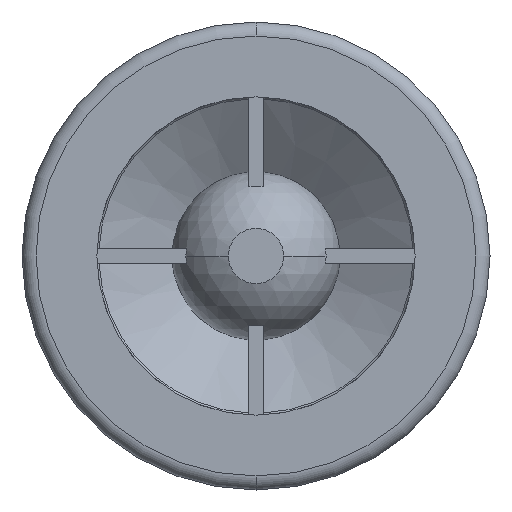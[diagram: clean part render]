
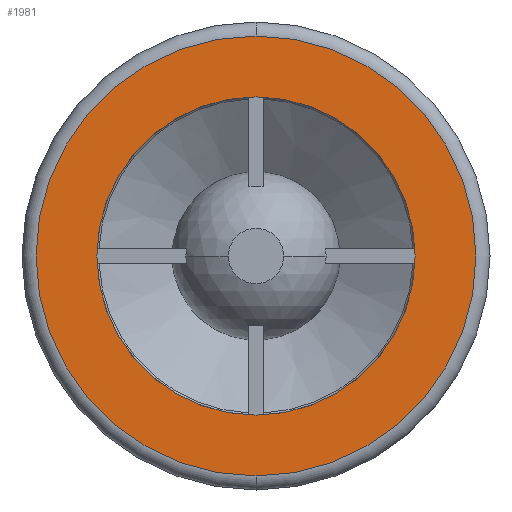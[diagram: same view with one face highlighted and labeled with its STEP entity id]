
A CAD part, front view. The second image highlights one B-rep face of the part: STEP entity #1981.
In plain terms, the highlighted planar face has unit normal (0, -1, 0).
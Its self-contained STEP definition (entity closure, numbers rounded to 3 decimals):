
#1615 = EDGE_CURVE ( 'NONE', #1616, #1617, #5136, .T. ) ;
#1616 = VERTEX_POINT ( 'NONE', #5131 ) ;
#1617 = VERTEX_POINT ( 'NONE', #5130 ) ;
#1721 = VERTEX_POINT ( 'NONE', #5295 ) ;
#1724 = EDGE_CURVE ( 'NONE', #1721, #1725, #5358, .T. ) ;
#1725 = VERTEX_POINT ( 'NONE', #5353 ) ;
#1753 = EDGE_CURVE ( 'NONE', #1725, #1721, #5364, .T. ) ;
#1959 = ORIENTED_EDGE ( 'NONE', *, *, #1960, .T. ) ;
#1960 = EDGE_CURVE ( 'NONE', #1617, #1616, #5751, .T. ) ;
#1961 = ORIENTED_EDGE ( 'NONE', *, *, #1615, .T. ) ;
#1962 = EDGE_LOOP ( 'NONE', ( #1963, #1964 ) ) ;
#1963 = ORIENTED_EDGE ( 'NONE', *, *, #1753, .F. ) ;
#1964 = ORIENTED_EDGE ( 'NONE', *, *, #1724, .F. ) ;
#1981 = ADVANCED_FACE ( 'NONE', ( #5785, #5784 ), #5783, .F. ) ;
#1982 = EDGE_LOOP ( 'NONE', ( #1959, #1961 ) ) ;
#5130 = CARTESIAN_POINT ( 'NONE',  ( 0., 0., 23.5 ) ) ;
#5131 = CARTESIAN_POINT ( 'NONE',  ( 0., 0., -23.5 ) ) ;
#5132 = DIRECTION ( 'NONE',  ( 0., 0., 1. ) ) ;
#5133 = DIRECTION ( 'NONE',  ( 0., -1., 0. ) ) ;
#5134 = CARTESIAN_POINT ( 'NONE',  ( 0., 0., 0. ) ) ;
#5135 = AXIS2_PLACEMENT_3D ( 'NONE', #5134, #5133, #5132 ) ;
#5136 = CIRCLE ( 'NONE', #5135, 23.5 ) ;
#5295 = CARTESIAN_POINT ( 'NONE',  ( 0., 0., 17. ) ) ;
#5353 = CARTESIAN_POINT ( 'NONE',  ( 0., 0., -17. ) ) ;
#5354 = DIRECTION ( 'NONE',  ( 0., 0., -1. ) ) ;
#5355 = DIRECTION ( 'NONE',  ( 0., -1., 0. ) ) ;
#5356 = CARTESIAN_POINT ( 'NONE',  ( 0., 0., 0. ) ) ;
#5357 = AXIS2_PLACEMENT_3D ( 'NONE', #5356, #5355, #5354 ) ;
#5358 = CIRCLE ( 'NONE', #5357, 17. ) ;
#5360 = DIRECTION ( 'NONE',  ( 0., 0., -1. ) ) ;
#5361 = DIRECTION ( 'NONE',  ( 0., -1., 0. ) ) ;
#5362 = CARTESIAN_POINT ( 'NONE',  ( 0., 0., 0. ) ) ;
#5363 = AXIS2_PLACEMENT_3D ( 'NONE', #5362, #5361, #5360 ) ;
#5364 = CIRCLE ( 'NONE', #5363, 17. ) ;
#5750 = CARTESIAN_POINT ( 'NONE',  ( 0., 0., 0. ) ) ;
#5751 = CIRCLE ( 'NONE', #5816, 23.5 ) ;
#5782 = DIRECTION ( 'NONE',  ( 0., 1., 0. ) ) ;
#5783 = PLANE ( 'NONE',  #5847 ) ;
#5784 = FACE_BOUND ( 'NONE', #1962, .T. ) ;
#5785 = FACE_OUTER_BOUND ( 'NONE', #1982, .T. ) ;
#5814 = DIRECTION ( 'NONE',  ( 0., 0., 1. ) ) ;
#5815 = DIRECTION ( 'NONE',  ( 0., -1., 0. ) ) ;
#5816 = AXIS2_PLACEMENT_3D ( 'NONE', #5750, #5815, #5814 ) ;
#5845 = DIRECTION ( 'NONE',  ( 0., 0., 1. ) ) ;
#5846 = CARTESIAN_POINT ( 'NONE',  ( -17., 0., 0. ) ) ;
#5847 = AXIS2_PLACEMENT_3D ( 'NONE', #5846, #5782, #5845 ) ;
